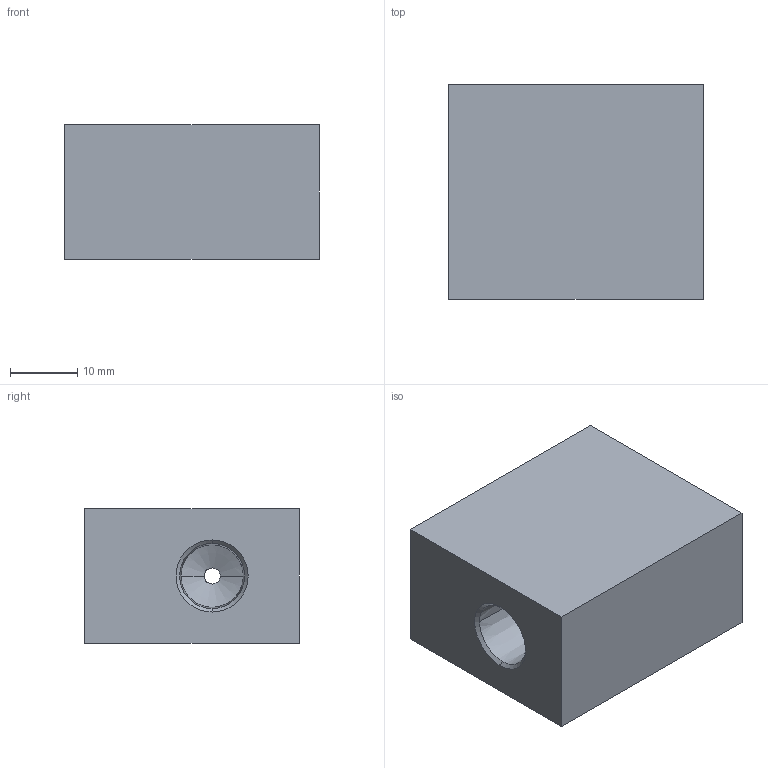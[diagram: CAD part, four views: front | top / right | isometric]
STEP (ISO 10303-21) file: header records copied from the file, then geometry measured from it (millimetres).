
FILE_DESCRIPTION (( 'STEP AP203' ), '1' );
FILE_NAME ('FTPTS02.STEP', '2026-06-26T01:49:34', ( 'USER' ), ( '' ), 'SwSTEP 2.0', 'SolidWorks 2023', '' );
FILE_SCHEMA (( 'CONFIG_CONTROL_DESIGN' ));
Length unit declared in the file: millimetre
Products named in the file (1): FTPTS02
Bounding box: 38 x 32 x 20 mm (x, y, z)
Volume: 21998.2 mm3; surface area: 6232.1 mm2
Topology: 1 solids, 1 shells, 34 faces, 79 edges, 46 vertices
Faces by surface type: cone 18, cylinder 10, plane 6
Entity records: 1042 total; most frequent: DIRECTION 179, CARTESIAN_POINT 172, ORIENTED_EDGE 158, EDGE_CURVE 79, AXIS2_PLACEMENT_3D 69, VERTEX_POINT 46, VECTOR 41, LINE 41
